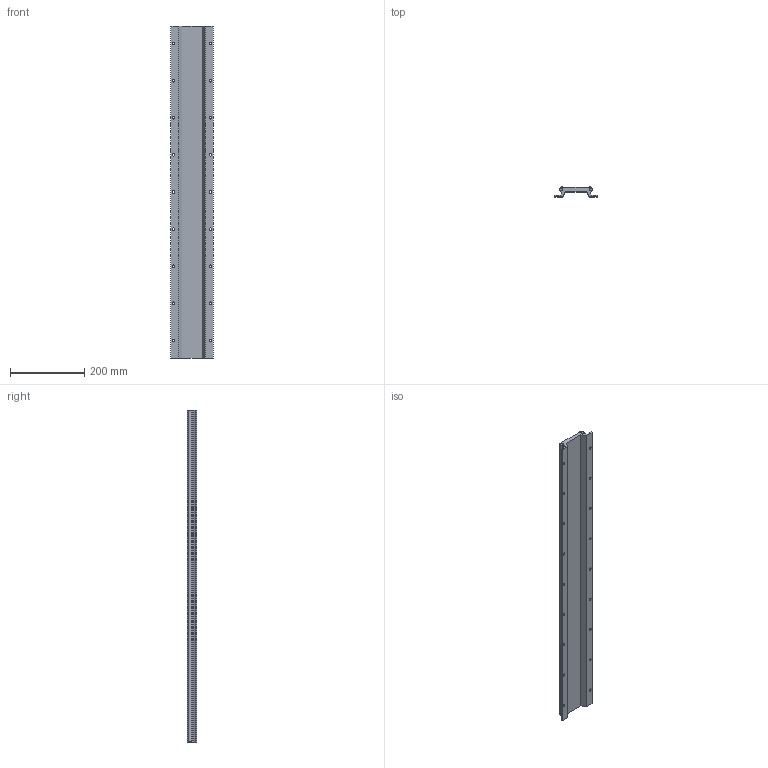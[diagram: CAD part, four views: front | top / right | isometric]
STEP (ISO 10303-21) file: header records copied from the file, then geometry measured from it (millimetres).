
FILE_DESCRIPTION (( 'STEP AP203' ), '1' );
FILE_NAME ('MLF 3_-_MLF 3 896 mm lang.step', '2005-06-03T09:57:32', ( ' ' ), ( ' ' ), 'SwSTEP 2.0', 'SolidWorks 2004231', '' );
FILE_SCHEMA (( 'CONFIG_CONTROL_DESIGN' ));
Length unit declared in the file: millimetre
Products named in the file (1): MLF 3_-_MLF 3  896 mm lang
Bounding box: 115 x 25.5 x 896 mm (x, y, z)
Volume: 1163127.8 mm3; surface area: 317376.6 mm2
Topology: 1 solids, 1 shells, 152 faces, 516 edges, 340 vertices
Faces by surface type: plane 96, cylinder 56
Entity records: 5777 total; most frequent: CARTESIAN_POINT 1225, ORIENTED_EDGE 1032, DIRECTION 898, EDGE_CURVE 516, VERTEX_POINT 340, AXIS2_PLACEMENT_3D 301, VECTOR 296, LINE 296
